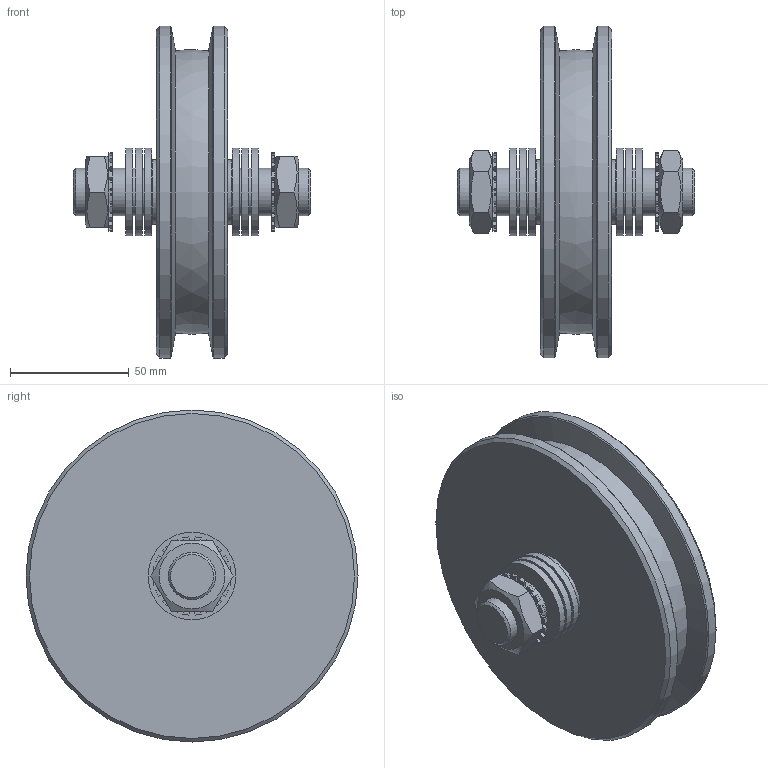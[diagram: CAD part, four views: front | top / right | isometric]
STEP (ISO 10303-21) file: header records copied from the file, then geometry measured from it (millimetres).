
FILE_DESCRIPTION(/* description */ ('Rolle Ø140'),/* implementation_level */ '2;1');
FILE_NAME(/* name */ 'Q:\sge-ma\Produktmanagement-STB\STB\Workspace\stp\010337674.stp',/* time_stamp */ '2016-07-21T13:52:39+02:00',/* author */ ('avschreier'),/* organization */ (''),/* preprocessor_version */ 'ST-DEVELOPER v16.1',/* originating_system */ 'Autodesk Inventor 2016',/* authorisation */ '');
FILE_SCHEMA (('CONFIG_CONTROL_DESIGN'));
Length unit declared in the file: millimetre
Products named in the file (9): 337000139; 337000178; 337000140; DIN_6798-A_21_en; DIN_EN_ISO_4035-M20_en; DIN_EN_ISO_7090-21_en; DIN_472-50x2_en; DIN_625-6204_en; 010337674
Assembly tree (16 placements, depth 2):
  010337674
    337000139
    337000178  x2
    337000140
    DIN_6798-A_21_en  x2
    DIN_EN_ISO_4035-M20_en  x2
    DIN_EN_ISO_7090-21_en  x6
    DIN_472-50x2_en
    DIN_625-6204_en
Bounding box: 100 x 140 x 140 mm (x, y, z)
Volume: 421188.1 mm3; surface area: 92549.8 mm2
Topology: 16 solids, 16 shells, 382 faces, 1053 edges, 694 vertices
Faces by surface type: cylinder 199, plane 133, cone 24, torus 18, sphere 7, bspline 1
Full cylindrical faces by diameter (mm): 2.5 x2, 17.294 x2, 20 x2, 20.5 x2, 21 x8, 27 x2, 28.64 x2, 35.5 x1, 37 x6, 38.36 x2, 47 x2, 49 x1, 53 x1, 140 x2
Entity records: 7672 total; most frequent: CARTESIAN_POINT 1968, DIRECTION 1218, ORIENTED_EDGE 1094, EDGE_CURVE 547, AXIS2_PLACEMENT_3D 498, VERTEX_POINT 384, EDGE_LOOP 287, CIRCLE 256
